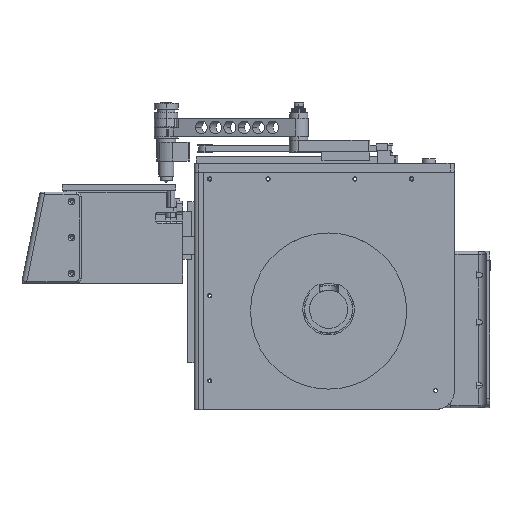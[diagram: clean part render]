
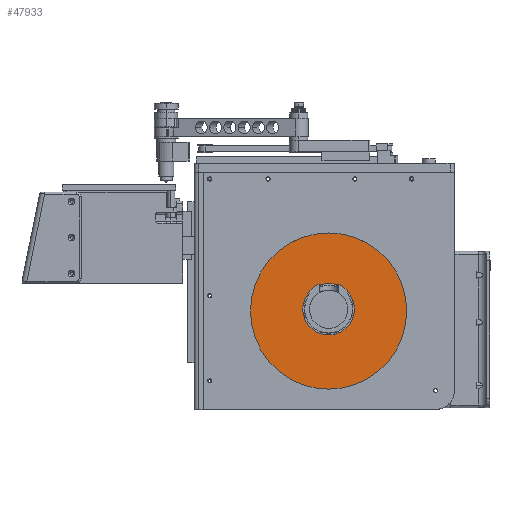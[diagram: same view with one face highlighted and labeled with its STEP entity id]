
A CAD part, top view. The second image highlights one B-rep face of the part: STEP entity #47933.
In plain terms, the highlighted planar face has unit normal (0, 0, 1).
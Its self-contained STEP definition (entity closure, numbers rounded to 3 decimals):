
#889 = ORIENTED_EDGE ( 'NONE', *, *, #33053, .F. ) ;
#1423 = DIRECTION ( 'NONE',  ( 0., 0., 1. ) ) ;
#2616 = EDGE_CURVE ( 'NONE', #17343, #60249, #8237, .T. ) ;
#2934 = ORIENTED_EDGE ( 'NONE', *, *, #42045, .T. ) ;
#8237 = CIRCLE ( 'NONE', #31417, 100. ) ;
#8613 = DIRECTION ( 'NONE',  ( 1., 0., 0. ) ) ;
#8881 = DIRECTION ( 'NONE',  ( 0., 0., 1. ) ) ;
#8925 = DIRECTION ( 'NONE',  ( 0., 0., 1. ) ) ;
#11156 = VERTEX_POINT ( 'NONE', #41699 ) ;
#13976 = PLANE ( 'NONE',  #59566 ) ;
#17343 = VERTEX_POINT ( 'NONE', #20226 ) ;
#17645 = CARTESIAN_POINT ( 'NONE',  ( 171.5, -154., 34. ) ) ;
#19108 = CARTESIAN_POINT ( 'NONE',  ( 171.5, -154., 34. ) ) ;
#20226 = CARTESIAN_POINT ( 'NONE',  ( 271.5, -154., 34. ) ) ;
#21530 = DIRECTION ( 'NONE',  ( 1., 0., 0. ) ) ;
#22567 = CIRCLE ( 'NONE', #44511, 100. ) ;
#23873 = FACE_OUTER_BOUND ( 'NONE', #25029, .T. ) ;
#25029 = EDGE_LOOP ( 'NONE', ( #2934, #53396 ) ) ;
#29111 = ORIENTED_EDGE ( 'NONE', *, *, #57870, .F. ) ;
#31417 = AXIS2_PLACEMENT_3D ( 'NONE', #58739, #8925, #8613 ) ;
#33053 = EDGE_CURVE ( 'NONE', #11156, #45327, #51836, .T. ) ;
#37092 = DIRECTION ( 'NONE',  ( 0., 0., 1. ) ) ;
#39199 = DIRECTION ( 'NONE',  ( 1., 0., 0. ) ) ;
#41699 = CARTESIAN_POINT ( 'NONE',  ( 198.75, -154., 34. ) ) ;
#42045 = EDGE_CURVE ( 'NONE', #60249, #17343, #22567, .T. ) ;
#43206 = EDGE_LOOP ( 'NONE', ( #29111, #889 ) ) ;
#43317 = DIRECTION ( 'NONE',  ( 1., 0., 0. ) ) ;
#44394 = AXIS2_PLACEMENT_3D ( 'NONE', #52296, #37092, #57230 ) ;
#44511 = AXIS2_PLACEMENT_3D ( 'NONE', #52222, #1423, #21530 ) ;
#45327 = VERTEX_POINT ( 'NONE', #62149 ) ;
#47933 = ADVANCED_FACE ( 'NONE', ( #23873, #48924 ), #13976, .T. ) ;
#48279 = DIRECTION ( 'NONE',  ( 0., 0., 1. ) ) ;
#48924 = FACE_BOUND ( 'NONE', #43206, .T. ) ;
#51772 = CIRCLE ( 'NONE', #59095, 27.25 ) ;
#51836 = CIRCLE ( 'NONE', #44394, 27.25 ) ;
#52222 = CARTESIAN_POINT ( 'NONE',  ( 171.5, -154., 34. ) ) ;
#52296 = CARTESIAN_POINT ( 'NONE',  ( 171.5, -154., 34. ) ) ;
#53396 = ORIENTED_EDGE ( 'NONE', *, *, #2616, .T. ) ;
#56538 = CARTESIAN_POINT ( 'NONE',  ( 71.5, -154., 34. ) ) ;
#57230 = DIRECTION ( 'NONE',  ( 1., 0., 0. ) ) ;
#57870 = EDGE_CURVE ( 'NONE', #45327, #11156, #51772, .T. ) ;
#58739 = CARTESIAN_POINT ( 'NONE',  ( 171.5, -154., 34. ) ) ;
#59095 = AXIS2_PLACEMENT_3D ( 'NONE', #19108, #8881, #39199 ) ;
#59566 = AXIS2_PLACEMENT_3D ( 'NONE', #17645, #48279, #43317 ) ;
#60249 = VERTEX_POINT ( 'NONE', #56538 ) ;
#62149 = CARTESIAN_POINT ( 'NONE',  ( 144.25, -154., 34. ) ) ;
